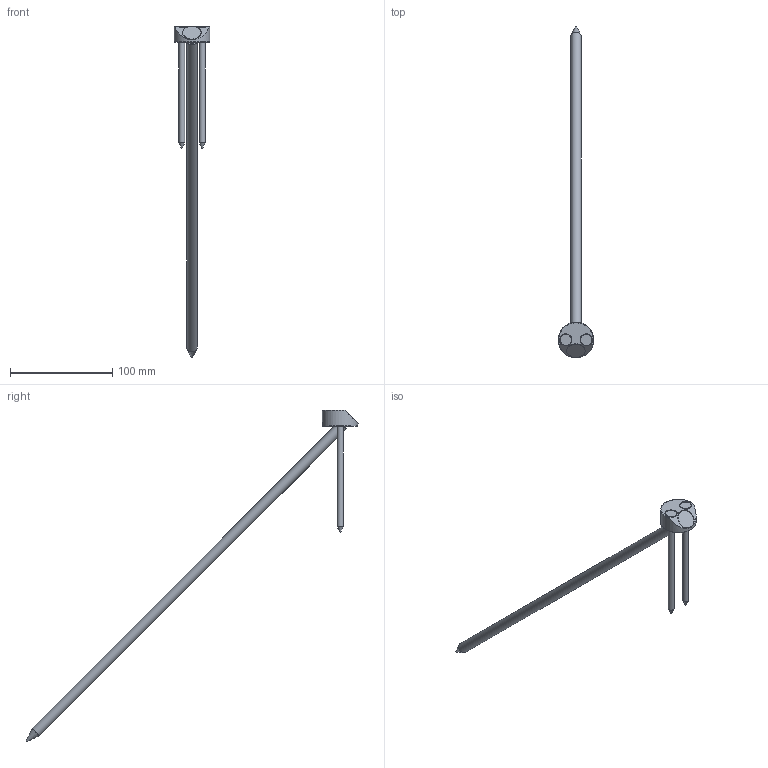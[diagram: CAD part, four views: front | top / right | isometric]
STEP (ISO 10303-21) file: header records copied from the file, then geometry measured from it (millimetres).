
FILE_DESCRIPTION(/* description */ ('Unknown'),/* implementation_level */ '2;1');
FILE_NAME(/* name */ 'T-JOINT_D35_W45_2xSK 6x120_1xSK 10x450',/* time_stamp */ '2022-02-03T13:37:06+01:00',/* author */ ('Unknown'),/* organization */ ('Unknown'),/* preprocessor_version */ 'ST-DEVELOPER v16.7',/* originating_system */ 'Solid Edge',/* authorisation */ 'Unknown');
FILE_SCHEMA (('AUTOMOTIVE_DESIGN {1 0 10303 214 3 1 1}'));
Length unit declared in the file: millimetre
Products named in the file (4): T-Joint_D35_W45_SK-10x450_2xSK-6x120; T-Joint_D35_W45; SK Schraube 6x120_ohne_Gewinde; SK Schraube 10x450_ohne_Gewinde_22042020
Assembly tree (4 placements, depth 2):
  T-Joint_D35_W45_SK-10x450_2xSK-6x120
    T-Joint_D35_W45
    SK Schraube 6x120_ohne_Gewinde  x2
    SK Schraube 10x450_ohne_Gewinde_22042020
Bounding box: 34.78 x 325.18 x 324.91 mm (x, y, z)
Volume: 52288.6 mm3; surface area: 23150.3 mm2
Topology: 4 solids, 4 shells, 35 faces, 73 edges, 45 vertices
Faces by surface type: cylinder 12, plane 11, cone 9, torus 3
Full cylindrical faces by diameter (mm): 6 x2, 6.2 x2, 6.3 x1, 10 x2, 11 x2, 12.5 x1, 18 x1, 34.8 x1
Entity records: 771 total; most frequent: DIRECTION 130, CARTESIAN_POINT 126, ORIENTED_EDGE 76, AXIS2_PLACEMENT_3D 63, EDGE_LOOP 53, FACE_BOUND 53, EDGE_CURVE 38, VERTEX_POINT 33
